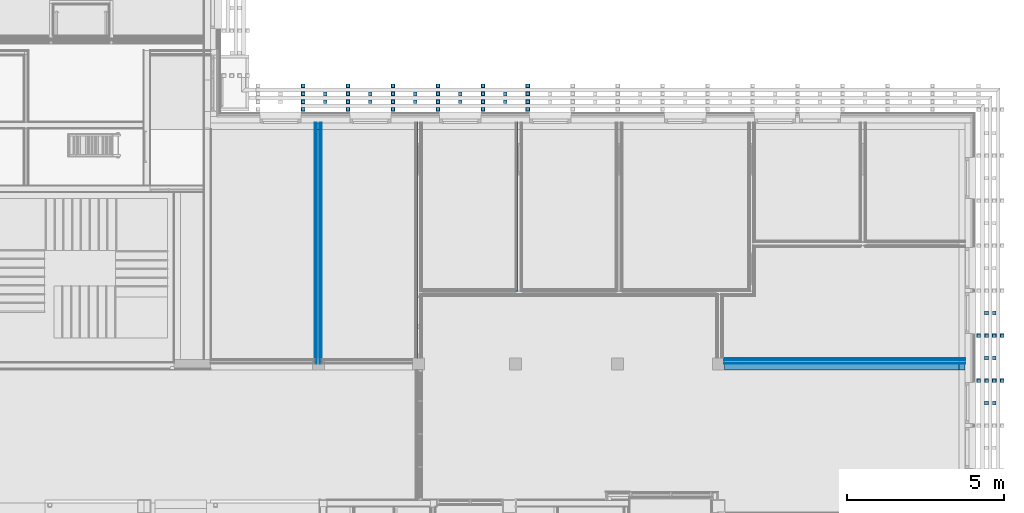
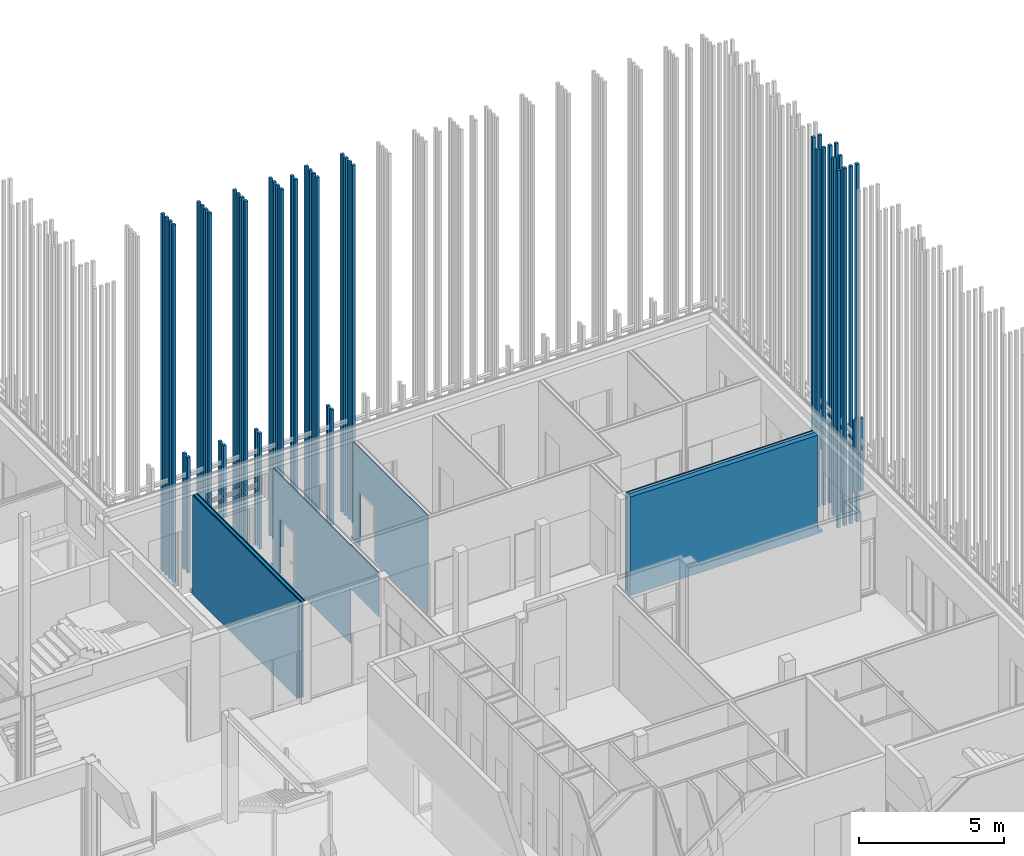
# One storey, part 215 of 260: 18 building element parts, 16 discrete accessories, 3 openings, 4 elements without a shape of their own.
"""IFC2X3 building model written with IfcOpenShell, lengths in millimetres."""

import ifcopenshell
import ifcopenshell.guid

model = None  # the IFC model being written
_history = None  # IfcOwnerHistory: only IFC2X3 demands one
_inside = {}  # id of a spatial element -> (the spatial element, [elements in it])
_under = {}  # id of a project, library or spatial element -> (it, [spatial elements below it])
_declared = {}  # id of a project -> (the project, [libraries it declares])
_typed = {}  # id of a type object -> (the type object, [elements of that type])
_made_of = {}  # id of a material, layer set ... -> (it, [elements and type objects made of it])


def new_model(schema):
    """Start an empty IFC model of exactly this schema.

    Asked for "IFC4X3", IfcOpenShell would pick the latest addendum, in which some entities
    have other attributes; the version numbers below select the first issue.
    IFC2X3 requires an IfcOwnerHistory on every rooted entity: one is made here for all.
    """
    global model, _history
    if schema == "IFC4X3":
        model = ifcopenshell.file(schema_version=(4, 3, 0, 0))
    else:
        model = ifcopenshell.file(schema=schema)
    _inside.clear()
    _under.clear()
    _declared.clear()
    _typed.clear()
    _made_of.clear()
    _history = None
    if model.schema == "IFC2X3":
        org = make("IfcOrganization", Name="unknown")
        user = make(
            "IfcPersonAndOrganization",
            ThePerson=make("IfcPerson", FamilyName="unknown"),
            TheOrganization=org,
        )
        app = make(
            "IfcApplication",
            ApplicationDeveloper=org,
            Version="unknown",
            ApplicationFullName="unknown",
            ApplicationIdentifier="unknown",
        )
        _history = make(
            "IfcOwnerHistory",
            OwningUser=user,
            OwningApplication=app,
            ChangeAction="ADDED",
            CreationDate=0,
        )
    return model


def make(cls, **values):
    """One entity of the class cls with the attributes given. An attribute that is None is left unset."""
    return model.create_entity(
        cls, **{name: value for name, value in values.items() if value is not None}
    )


def entity(cls, *values):
    """Any entity or typed value of the class cls, its attributes in the order of the schema. None: left unset."""
    e = model.create_entity(cls)
    for i, value in enumerate(values):
        if value is not None:
            e[i] = value
    return e


def rooted(cls, **values):
    """An entity with a GlobalId (a new one), such as an element, a storey or a relation."""
    return make(cls, GlobalId=ifcopenshell.guid.new(), OwnerHistory=_history, **values)


def si_unit(unit_type, name, prefix=None):
    """IfcSIUnit, for example si_unit("LENGTHUNIT", "METRE", prefix="MILLI")."""
    return make("IfcSIUnit", UnitType=unit_type, Prefix=prefix, Name=name)


def converted_unit(unit_type, name, factor, base, dimensions=None, offset=None):
    """IfcConversionBasedUnit, such as the inch: factor (a typed value) times the base unit."""
    return make(
        "IfcConversionBasedUnit"
        if offset is None
        else "IfcConversionBasedUnitWithOffset",
        ConversionOffset=offset,
        Dimensions=None
        if dimensions is None
        else entity("IfcDimensionalExponents", *dimensions),
        UnitType=unit_type,
        Name=name,
        ConversionFactor=make(
            "IfcMeasureWithUnit", ValueComponent=factor, UnitComponent=base
        ),
    )


def derived_unit(unit_type, elements):
    """IfcDerivedUnit: a product of units, each with its exponent."""
    return make(
        "IfcDerivedUnit",
        Elements=[
            make("IfcDerivedUnitElement", Unit=unit, Exponent=power)
            for unit, power in elements
        ],
        UnitType=unit_type,
    )


def money_unit(currency):
    """IfcMonetaryUnit."""
    return make("IfcMonetaryUnit", Currency=currency)


def assignment(units):
    """IfcUnitAssignment: the units of a project."""
    return None if units is None else make("IfcUnitAssignment", Units=units)


def point(xyz):
    """IfcCartesianPoint."""
    return None if xyz is None else make("IfcCartesianPoint", Coordinates=xyz)


def direction(xyz):
    """IfcDirection."""
    return None if xyz is None else make("IfcDirection", DirectionRatios=xyz)


def frame(location, z_axis=None, x_axis=None):
    """IfcAxis2Placement3D, a coordinate frame: its origin and axes. An axis left out is left unset."""
    return make(
        "IfcAxis2Placement3D",
        Location=point(location),
        Axis=direction(z_axis),
        RefDirection=direction(x_axis),
    )


def origin_with_axes():
    """The frame at (0, 0, 0) with the z axis (0, 0, 1) and the x axis (1, 0, 0) written out."""
    return frame((0.0, 0.0, 0.0), z_axis=(0.0, 0.0, 1.0), x_axis=(1.0, 0.0, 0.0))


def place(relative_to, where):
    """IfcLocalPlacement: puts the frame where relative to a parent placement (None: the world)."""
    return make(
        "IfcLocalPlacement", PlacementRelTo=relative_to, RelativePlacement=where
    )


def context(
    kind, dimensions, precision=None, world=None, true_north=None, identifier=None
):
    """IfcGeometricRepresentationContext, for example the 3D "Model" context."""
    return make(
        "IfcGeometricRepresentationContext",
        ContextIdentifier=identifier,
        ContextType=kind,
        CoordinateSpaceDimension=dimensions,
        Precision=precision,
        WorldCoordinateSystem=world,
        TrueNorth=true_north,
    )


def subcontext(parent, identifier, kind, view, scale=None):
    """IfcGeometricRepresentationSubContext, for example "Body" below "Model"."""
    return make(
        "IfcGeometricRepresentationSubContext",
        ContextIdentifier=identifier,
        ContextType=kind,
        ParentContext=parent,
        TargetScale=scale,
        TargetView=view,
    )


def project(units=None, contexts=None):
    """IfcProject with its units and contexts."""
    return rooted(
        "IfcProject",
        Name="project",
        RepresentationContexts=contexts,
        UnitsInContext=assignment(units),
    )


def spatial(cls, under=None, at=None, **own):
    """A site, building, storey or space (cls), placed at a placement, below another one or the project."""
    s = rooted(cls, ObjectPlacement=at, **own)
    if under is not None:
        _under.setdefault(under.id(), (under, []))[1].append(s)
    return s


def faces_of(points, faces, orient=None, outer=None):
    """IfcFace entities. A face is a list of loops; a loop is a list of indices into points, from 0.

    orient and outer hold one flag for each loop. By default every Orientation is true, the
    first loop of a face is its IfcFaceOuterBound and the others are IfcFaceBound.
    """
    made = []
    for i, loops in enumerate(faces):
        bounds = []
        for j, loop in enumerate(loops):
            is_outer = j == 0 if outer is None else outer[i][j]
            bounds.append(
                make(
                    "IfcFaceOuterBound" if is_outer else "IfcFaceBound",
                    Bound=make("IfcPolyLoop", Polygon=[points[k] for k in loop]),
                    Orientation=True if orient is None else orient[i][j],
                )
            )
        made.append(make("IfcFace", Bounds=bounds))
    return made


def faceted_brep(points, faces, orient=None, outer=None, voids=None):
    """IfcFacetedBrep: a solid bounded by flat faces; with voids (closed shells), ...WithVoids."""
    shared = [point(p) for p in points]
    hull = make("IfcClosedShell", CfsFaces=faces_of(shared, faces, orient, outer))
    if voids is None:
        return make("IfcFacetedBrep", Outer=hull)
    return make(
        "IfcFacetedBrepWithVoids",
        Outer=hull,
        Voids=[
            make(cls, CfsFaces=faces_of(shared, fs, o, b)) for cls, fs, o, b in voids
        ],
    )


def shape(context_of_items, identifier, shape_type, items):
    """IfcShapeRepresentation: the items that make up one representation, for example the "Body"."""
    return make(
        "IfcShapeRepresentation",
        ContextOfItems=context_of_items,
        RepresentationIdentifier=identifier,
        RepresentationType=shape_type,
        Items=items,
    )


def material(Name=None, Category=None):
    """IfcMaterial."""
    return make("IfcMaterial", Name=Name, Category=Category)


def material_list(materials):
    """IfcMaterialList."""
    return make("IfcMaterialList", Materials=materials)


def made_of(thing, what):
    """Note that an element or type object is made of a material, layer set ...; save() writes the relation."""
    if what is not None:
        _made_of.setdefault(what.id(), (what, []))[1].append(thing)
    return thing


def type_object(cls, material=None, **own):
    """A type object (cls), such as IfcWallType, which elements share."""
    return made_of(rooted(cls, **own), material)


def element(
    cls,
    number,
    at=None,
    inside=None,
    cuts=None,
    type_object=None,
    material=None,
    context=None,
    identifier="Body",
    shape_type=None,
    held_by="IfcProductDefinitionShape",
    body=None,
    shapes=None,
    **own,
):
    """One element of the class cls, such as IfcWall. Its Tag is "e" and its number.

    at: its placement. inside: the storey or other place that contains it. cuts: it is an
    opening in that element (IfcRelVoidsElement). A single representation is given by context,
    identifier, shape_type and body (its items); several are given by shapes. held_by: the class
    of the entity that holds the representations. save() writes the other relations.
    """
    e = rooted(cls, Tag="e%d" % number, ObjectPlacement=at, **own)
    if body is not None:
        shapes = [shape(context, identifier, shape_type, body)]
    if shapes is not None:
        e.Representation = make(held_by, Representations=shapes)
    if inside is not None:
        _inside.setdefault(inside.id(), (inside, []))[1].append(e)
    if cuts is not None:
        rooted(
            "IfcRelVoidsElement", RelatingBuildingElement=cuts, RelatedOpeningElement=e
        )
    if type_object is not None:
        _typed.setdefault(type_object.id(), (type_object, []))[1].append(e)
    return made_of(e, material)


def aggregate(whole, parts):
    """IfcRelAggregates: a whole, such as a stair, and the parts it consists of."""
    return rooted("IfcRelAggregates", RelatingObject=whole, RelatedObjects=parts)


def save(model, path):
    """Write the relations noted so far, then the file.

    IfcRelAggregates (storeys below a building ...), IfcRelContainedInSpatialStructure (elements
    in a storey), IfcRelDefinesByType, IfcRelAssociatesMaterial and IfcRelDeclares: one each for
    every whole, place, type object, material and project.
    """
    for whole, parts in _under.values():
        aggregate(whole, parts)
    for where, things in _inside.values():
        rooted(
            "IfcRelContainedInSpatialStructure",
            RelatedElements=things,
            RelatingStructure=where,
        )
    for kind, things in _typed.values():
        rooted("IfcRelDefinesByType", RelatedObjects=things, RelatingType=kind)
    for what, things in _made_of.values():
        rooted("IfcRelAssociatesMaterial", RelatedObjects=things, RelatingMaterial=what)
    for by, libraries in _declared.values():
        rooted("IfcRelDeclares", RelatingContext=by, RelatedDefinitions=libraries)
    model.write(path)


model = new_model("IFC2X3")

# Units and contexts
model_context = context("Model", 3, precision=0.01, world=origin_with_axes(), true_north=direction((0.0, 1.0)))
body_context = subcontext(model_context, "Body", "Model", "MODEL_VIEW")
ifc_project = project(units=[si_unit("LENGTHUNIT", "METRE", prefix="MILLI"), si_unit("AREAUNIT", "SQUARE_METRE"), si_unit("VOLUMEUNIT", "CUBIC_METRE"), converted_unit("PLANEANGLEUNIT", "DEGREE", entity("IfcPlaneAngleMeasure", 0.0174532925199), si_unit("PLANEANGLEUNIT", "RADIAN"), dimensions=[0, 0, 0, 0, 0, 0, 0]), money_unit("EUR"), converted_unit("TIMEUNIT", "Year", entity("IfcTimeMeasure", 31556926.0), si_unit("TIMEUNIT", "SECOND"), dimensions=[0, 0, 1, 0, 0, 0, 0]), si_unit("MASSUNIT", "GRAM", prefix="KILO"), si_unit("THERMODYNAMICTEMPERATUREUNIT", "DEGREE_CELSIUS"), si_unit("LUMINOUSINTENSITYUNIT", "LUMEN"), si_unit("ENERGYUNIT", "JOULE", prefix="MEGA"), derived_unit("THERMALCONDUCTANCEUNIT", [(si_unit("POWERUNIT", "WATT"), 1), (si_unit("LENGTHUNIT", "METRE"), -1), (si_unit("THERMODYNAMICTEMPERATUREUNIT", "KELVIN"), -1)]), derived_unit("SPECIFICHEATCAPACITYUNIT", [(si_unit("ENERGYUNIT", "JOULE"), 1), (si_unit("MASSUNIT", "GRAM", prefix="KILO"), -1), (si_unit("THERMODYNAMICTEMPERATUREUNIT", "KELVIN"), -1)]), derived_unit("MASSDENSITYUNIT", [(si_unit("MASSUNIT", "GRAM", prefix="KILO"), 1), (si_unit("VOLUMEUNIT", "CUBIC_METRE"), -1)])], contexts=[model_context])

# Site, building, storey
site_placement = place(None, origin_with_axes())
site = spatial("IfcSite", under=ifc_project, at=site_placement, Name="Kolde pst 67a", CompositionType="ELEMENT")
building_placement = place(site_placement, origin_with_axes())
building = spatial("IfcBuilding", under=site, at=building_placement, Name="Riigigümnaasium", CompositionType="ELEMENT")
storey_placement = place(building_placement, origin_with_axes())
storey = spatial("IfcBuildingStorey", under=building, at=storey_placement, Name="1. korrus", CompositionType="ELEMENT", Elevation=0.0)

# Discrete accessories
ifc_material_1 = material(Name="_VÄLISVIIMISTLUS - sõrmjätkatud puitprussid 120x115mm, liitekohad vähemärgatavad, Platowood sõrmjätkatud kuusk või samaväärne; eeltöödeldud tuletõkkevõõbaga, tuletundlikkus B-s1, d0, Woodsafe Exterior WFX™ või samaväärne; kinnitused vastavalt EK osale")
ifc_material_list_1 = material_list([ifc_material_1, ifc_material_1, ifc_material_1, ifc_material_1])
discrete_accessory_type_1 = type_object("IfcDiscreteAccessoryType", Name="120 4-ne vertikaalne 870 x 115")
for number, where, z_axis, x_axis in (
    (1, (63392.4904765, 36791.9898883, 280.0), (0.0, 0.0, 1.0), (-6.32316306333e-05, -0.999999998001, 0.0)),
    (2, (64822.4904765, 36791.989315, 280.0), (0.0, 0.0, 1.0), (-6.32316306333e-05, -0.999999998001, 0.0)),
    (3, (66252.4904765, 36791.9894233, 280.0), (0.0, 0.0, 1.0), (-6.32316306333e-05, -0.999999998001, 0.0)),
    (4, (67682.4904765, 36791.9934079, 280.0), (0.0, 0.0, 1.0), (-6.32316306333e-05, -0.999999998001, 0.0)),
    (5, (69112.4904765, 36791.9925828, 280.0), (0.0, 0.0, 1.0), (-6.32316306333e-05, -0.999999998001, 0.0)),
    (6, (70542.4904765, 36791.9932991, 280.0), (0.0, 0.0, 1.0), (-6.32316306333e-05, -0.999999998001, 0.0)),
    (7, (84792.0287604, 28237.5258999, 280.0), (0.0, 0.0, 1.0), (-0.999999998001, 6.32316306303e-05, 0.0)),
    (8, (84792.0287604, 29667.5259027, 280.0), (0.0, 0.0, 1.0), (-0.999999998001, 6.32316306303e-05, 0.0)),
):
    element("IfcDiscreteAccessory", number, at=place(storey_placement, frame(where, z_axis=z_axis, x_axis=x_axis)), inside=storey, type_object=discrete_accessory_type_1, material=ifc_material_list_1, Name="Päikesevarjestus", context=body_context, shape_type="Brep", body=[
        faceted_brep([(-133.0, -70.0, 0.0), (-13.0, -70.0, 0.0), (-13.0, -70.0, 15050.0), (-133.0, -70.0, 15050.0), (-133.0, 45.0, 0.0), (-13.0, 45.0, 0.0), (-13.0, 45.0, 15050.0), (-133.0, 45.0, 15050.0)], [[[0, 1, 2, 3]], [[0, 4, 5, 1]], [[1, 5, 6, 2]], [[3, 2, 6, 7]], [[4, 0, 3, 7]], [[5, 4, 7, 6]]]),
        faceted_brep([(-383.0, -70.0, 0.0), (-263.0, -70.0, 0.0), (-263.0, -70.0, 15050.0), (-383.0, -70.0, 15050.0), (-383.0, 45.0, 0.0), (-263.0, 45.0, 0.0), (-263.0, 45.0, 15050.0), (-383.0, 45.0, 15050.0)], [[[0, 1, 2, 3]], [[0, 4, 5, 1]], [[1, 5, 6, 2]], [[3, 2, 6, 7]], [[4, 0, 3, 7]], [[5, 4, 7, 6]]]),
        faceted_brep([(-633.0, -70.0, 0.0), (-513.0, -70.0, 0.0), (-513.0, -70.0, 15050.0), (-633.0, -70.0, 15050.0), (-633.0, 45.0, 0.0), (-513.0, 45.0, 0.0), (-513.0, 45.0, 15050.0), (-633.0, 45.0, 15050.0)], [[[0, 1, 2, 3]], [[0, 4, 5, 1]], [[1, 5, 6, 2]], [[3, 2, 6, 7]], [[4, 0, 3, 7]], [[5, 4, 7, 6]]]),
        faceted_brep([(-883.0, -70.0, 0.0), (-763.0, -70.0, 0.0), (-763.0, -70.0, 15050.0), (-883.0, -70.0, 15050.0), (-883.0, 45.0, 0.0), (-763.0, 45.0, 0.0), (-763.0, 45.0, 15050.0), (-883.0, 45.0, 15050.0)], [[[0, 1, 2, 3]], [[0, 4, 5, 1]], [[1, 5, 6, 2]], [[3, 2, 6, 7]], [[4, 0, 3, 7]], [[5, 4, 7, 6]]]),
    ])
ifc_material_list_2 = material_list([ifc_material_1, ifc_material_1])
discrete_accessory_type_2 = type_object("IfcDiscreteAccessoryType", Name="1+paiksekaitse 3 370 x 115")
discrete_accessory_1_placement = place(storey_placement, frame((85772.0257564, 29025.0094598, 280.0), z_axis=(0.0, 0.0, 1.0), x_axis=(-1.0, 0.0, 0.0)))
element("IfcDiscreteAccessory", 9, at=discrete_accessory_1_placement, inside=storey, type_object=discrete_accessory_type_2, material=ifc_material_list_2, Name="Päikesevarjestus", context=body_context, shape_type="Brep", body=[
    faceted_brep([(467.0, 117.5, 0.0), (347.0, 117.5, 0.0), (347.0, 117.5, 15050.0), (467.0, 117.5, 15050.0), (467.0, 2.5, 0.0), (347.0, 2.5, 0.0), (347.0, 2.5, 15050.0), (467.0, 2.5, 15050.0)], [[[0, 1, 2, 3]], [[0, 4, 5, 1]], [[1, 5, 6, 2]], [[3, 2, 6, 7]], [[4, 0, 3, 7]], [[5, 4, 7, 6]]]),
    faceted_brep([(717.0, 117.5, 0.0), (597.0, 117.5, 0.0), (597.0, 117.5, 15050.0), (717.0, 117.5, 15050.0), (717.0, 2.5, 0.0), (597.0, 2.5, 0.0), (597.0, 2.5, 15050.0), (717.0, 2.5, 15050.0)], [[[0, 1, 2, 3]], [[0, 4, 5, 1]], [[1, 5, 6, 2]], [[3, 2, 6, 7]], [[4, 0, 3, 7]], [[5, 4, 7, 6]]]),
])
discrete_accessory_2_placement = place(storey_placement, frame((85772.0257564, 30455.0094578, 2100.00014213), z_axis=(0.0, 0.0, 1.0), x_axis=(-1.0, 0.0, 0.0)))
element("IfcDiscreteAccessory", 10, at=discrete_accessory_2_placement, inside=storey, type_object=discrete_accessory_type_2, material=ifc_material_list_2, Name="Päikesevarjestus", context=body_context, shape_type="Brep", body=[
    faceted_brep([(467.0, 117.5, 0.0), (347.0, 117.5, 0.0), (347.0, 117.5, 13229.9998579), (467.0, 117.5, 13229.9998579), (467.0, 2.5, 0.0), (347.0, 2.5, 0.0), (347.0, 2.5, 13229.9998579), (467.0, 2.5, 13229.9998579)], [[[0, 1, 2, 3]], [[0, 4, 5, 1]], [[1, 5, 6, 2]], [[3, 2, 6, 7]], [[4, 0, 3, 7]], [[5, 4, 7, 6]]]),
    faceted_brep([(717.0, 117.5, 0.0), (597.0, 117.5, 0.0), (597.0, 117.5, 13229.9998579), (717.0, 117.5, 13229.9998579), (717.0, 2.5, 0.0), (597.0, 2.5, 0.0), (597.0, 2.5, 13229.9998579), (717.0, 2.5, 13229.9998579)], [[[0, 1, 2, 3]], [[0, 4, 5, 1]], [[1, 5, 6, 2]], [[3, 2, 6, 7]], [[4, 0, 3, 7]], [[5, 4, 7, 6]]]),
])
discrete_accessory_3_placement = place(storey_placement, frame((85772.0257564, 27595.0052234, 2100.00014213), z_axis=(0.0, 0.0, 1.0), x_axis=(-1.0, 0.0, 0.0)))
element("IfcDiscreteAccessory", 11, at=discrete_accessory_3_placement, inside=storey, type_object=discrete_accessory_type_2, material=ifc_material_list_2, Name="Päikesevarjestus", context=body_context, shape_type="Brep", body=[
    faceted_brep([(467.0, 117.5, 0.0), (347.0, 117.5, 0.0), (347.0, 117.5, 3050.0), (467.0, 117.5, 3050.0), (467.0, 2.5, 0.0), (347.0, 2.5, 0.0), (347.0, 2.5, 3050.0), (467.0, 2.5, 3050.0)], [[[0, 1, 2, 3]], [[0, 4, 5, 1]], [[1, 5, 6, 2]], [[3, 2, 6, 7]], [[4, 0, 3, 7]], [[5, 4, 7, 6]]]),
    faceted_brep([(717.0, 117.5, 0.0), (597.0, 117.5, 0.0), (597.0, 117.5, 3050.0), (717.0, 117.5, 3050.0), (717.0, 2.5, 0.0), (597.0, 2.5, 0.0), (597.0, 2.5, 3050.0), (717.0, 2.5, 3050.0)], [[[0, 1, 2, 3]], [[0, 4, 5, 1]], [[1, 5, 6, 2]], [[3, 2, 6, 7]], [[4, 0, 3, 7]], [[5, 4, 7, 6]]]),
])
discrete_accessory_4_placement = place(storey_placement, frame((68325.0296817, 37772.0065764, 2100.00014213), z_axis=(0.0, 0.0, 1.0), x_axis=(0.0, -1.0, 0.0)))
element("IfcDiscreteAccessory", 12, at=discrete_accessory_4_placement, inside=storey, type_object=discrete_accessory_type_2, material=ifc_material_list_2, Name="Päikesevarjestus", context=body_context, shape_type="Brep", body=[
    faceted_brep([(467.0, 117.5, 0.0), (347.0, 117.5, 0.0), (347.0, 117.5, 13229.9998579), (467.0, 117.5, 13229.9998579), (467.0, 2.49999999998, 0.0), (347.0, 2.5, 0.0), (347.0, 2.5, 13229.9998579), (467.0, 2.49999999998, 13229.9998579)], [[[0, 1, 2, 3]], [[0, 4, 5, 1]], [[1, 5, 6, 2]], [[3, 2, 6, 7]], [[4, 0, 3, 7]], [[5, 4, 7, 6]]]),
    faceted_brep([(717.0, 117.5, 0.0), (597.0, 117.5, 0.0), (597.0, 117.5, 13229.9998579), (717.0, 117.5, 13229.9998579), (717.0, 2.5, 0.0), (597.0, 2.5, 0.0), (597.0, 2.5, 13229.9998579), (717.0, 2.5, 13229.9998579)], [[[0, 1, 2, 3]], [[0, 4, 5, 1]], [[1, 5, 6, 2]], [[3, 2, 6, 7]], [[4, 0, 3, 7]], [[5, 4, 7, 6]]]),
])
for number, where, z_axis, x_axis in (
    (13, (69755.0448307, 37771.9921115, 280.0), (0.0, 0.0, 1.0), (0.0, -1.0, 0.0)),
    (14, (66895.0448221, 37771.9921115, 280.0), (0.0, 0.0, 1.0), (0.0, -1.0, 0.0)),
):
    element("IfcDiscreteAccessory", number, at=place(storey_placement, frame(where, z_axis=z_axis, x_axis=x_axis)), inside=storey, type_object=discrete_accessory_type_2, material=ifc_material_list_2, Name="Päikesevarjestus", context=body_context, shape_type="Brep", body=[
        faceted_brep([(467.0, 117.5, 0.0), (347.0, 117.5, 0.0), (347.0, 117.5, 4870.00014213), (467.0, 117.5, 4870.00014213), (467.0, 2.49999999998, 0.0), (347.0, 2.5, 0.0), (347.0, 2.5, 4870.00014213), (467.0, 2.49999999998, 4870.00014213)], [[[0, 1, 2, 3]], [[0, 4, 5, 1]], [[1, 5, 6, 2]], [[3, 2, 6, 7]], [[4, 0, 3, 7]], [[5, 4, 7, 6]]]),
        faceted_brep([(717.0, 117.5, 0.0), (597.0, 117.5, 0.0), (597.0, 117.5, 4870.00014213), (717.0, 117.5, 4870.00014213), (717.0, 2.5, 0.0), (597.0, 2.5, 0.0), (597.0, 2.5, 4870.00014213), (717.0, 2.5, 4870.00014213)], [[[0, 1, 2, 3]], [[0, 4, 5, 1]], [[1, 5, 6, 2]], [[3, 2, 6, 7]], [[4, 0, 3, 7]], [[5, 4, 7, 6]]]),
    ])
discrete_accessory_5_placement = place(storey_placement, frame((65465.0448221, 37771.9921115, 2100.0), z_axis=(0.0, 0.0, 1.0), x_axis=(0.0, -1.0, 0.0)))
element("IfcDiscreteAccessory", 15, at=discrete_accessory_5_placement, inside=storey, type_object=discrete_accessory_type_2, material=ifc_material_list_2, Name="Päikesevarjestus", context=body_context, shape_type="Brep", body=[
    faceted_brep([(467.0, 117.5, 0.0), (347.0, 117.5, 0.0), (347.0, 117.5, 3050.00014213), (467.0, 117.5, 3050.00014213), (467.0, 2.49999999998, 0.0), (347.0, 2.5, 0.0), (347.0, 2.5, 3050.00014213), (467.0, 2.49999999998, 3050.00014213)], [[[0, 1, 2, 3]], [[0, 4, 5, 1]], [[1, 5, 6, 2]], [[3, 2, 6, 7]], [[4, 0, 3, 7]], [[5, 4, 7, 6]]]),
    faceted_brep([(717.0, 117.5, 0.0), (597.0, 117.5, 0.0), (597.0, 117.5, 3050.00014213), (717.0, 117.5, 3050.00014213), (717.0, 2.5, 0.0), (597.0, 2.5, 0.0), (597.0, 2.5, 3050.00014213), (717.0, 2.5, 3050.00014213)], [[[0, 1, 2, 3]], [[0, 4, 5, 1]], [[1, 5, 6, 2]], [[3, 2, 6, 7]], [[4, 0, 3, 7]], [[5, 4, 7, 6]]]),
])
discrete_accessory_6_placement = place(storey_placement, frame((64035.0448221, 37771.9921115, 280.0), z_axis=(0.0, 0.0, 1.0), x_axis=(0.0, -1.0, 0.0)))
element("IfcDiscreteAccessory", 16, at=discrete_accessory_6_placement, inside=storey, type_object=discrete_accessory_type_2, material=ifc_material_list_2, Name="Päikesevarjestus", context=body_context, shape_type="Brep", body=[
    faceted_brep([(467.0, 117.5, 0.0), (347.0, 117.5, 0.0), (347.0, 117.5, 4870.00014213), (467.0, 117.5, 4870.00014213), (467.0, 2.49999999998, 0.0), (347.0, 2.5, 0.0), (347.0, 2.5, 4870.00014213), (467.0, 2.49999999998, 4870.00014213)], [[[0, 1, 2, 3]], [[0, 4, 5, 1]], [[1, 5, 6, 2]], [[3, 2, 6, 7]], [[4, 0, 3, 7]], [[5, 4, 7, 6]]]),
    faceted_brep([(717.0, 117.5, 0.0), (597.0, 117.5, 0.0), (597.0, 117.5, 4870.00014213), (717.0, 117.5, 4870.00014213), (717.0, 2.5, 0.0), (597.0, 2.5, 0.0), (597.0, 2.5, 4870.00014213), (717.0, 2.5, 4870.00014213)], [[[0, 1, 2, 3]], [[0, 4, 5, 1]], [[1, 5, 6, 2]], [[3, 2, 6, 7]], [[4, 0, 3, 7]], [[5, 4, 7, 6]]]),
])

# Wall, building element parts
wall_type_1 = type_object("IfcWallType", Name="SS-PK-10/1_vill100+2dold 220", PredefinedType="NOTDEFINED")
wall_1_placement = place(storey_placement, frame((63760.0301526, 28589.999656, 0.0), z_axis=(0.0, 0.0, 1.0), x_axis=(0.0, 1.0, 0.0)))
wall_1 = element("IfcWall", 17, at=wall_1_placement, inside=storey, type_object=wall_type_1, Name="Sisesein")
ifc_material_2 = material(Name="_VIIMISTLUSKIHT - Dold plaat vastavalt SA osale")
building_element_part_1_placement = place(wall_1_placement, origin_with_axes())
building_element_part_1 = element("IfcBuildingElementPart", 18, at=building_element_part_1_placement, material=ifc_material_2, Name="_VIIMISTLUSKIHT - Dold plaat vastavalt SA osale", context=body_context, shape_type="Brep", body=[
    faceted_brep([(380.00004372, -20.0, 4169.9), (380.00004372, -20.0, 0.0), (7850.00004372, -20.0, 0.0), (7850.00004372, -20.0, 100.0), (7650.00004372, -20.0, 100.0), (7650.00004372, -20.0, 4170.0), (200.0, -20.0, 4170.0), (200.0, -20.0, 4169.9), (380.00004372, 0.0, 4169.9), (380.00004372, 0.0, 0.0), (7850.00004372, 0.0, 0.0), (7850.00004372, 0.0, 100.0), (7650.00004372, 0.0, 100.0), (7650.00004372, 0.0, 4170.0), (200.0, 0.0, 4170.0), (200.0, 0.0, 4169.9)], [[[0, 1, 2, 3, 4, 5, 6, 7]], [[1, 0, 8, 9]], [[1, 9, 10, 2]], [[2, 10, 11, 3]], [[11, 12, 4, 3]], [[12, 13, 5, 4]], [[14, 6, 5, 13]], [[15, 7, 6, 14]], [[0, 7, 15, 8]], [[8, 15, 14, 13, 12, 11, 10, 9]]]),
])
ifc_material_3 = material(Name="_KARKASS - eriprofiilkinnitus vastavalt sisemisele plaatviimistlusele")
building_element_part_2_placement = place(wall_1_placement, origin_with_axes())
building_element_part_2 = element("IfcBuildingElementPart", 19, at=building_element_part_2_placement, material=ifc_material_3, Name="_KARKASS - eriprofiilkinnitus vastavalt sisemisele plaatviimistlusele", context=body_context, shape_type="Brep", body=[
    faceted_brep([(380.00004372, -30.0, 4169.9), (380.00004372, -30.0, 0.0), (7850.00004372, -30.0, 0.0), (7850.00004372, -30.0, 100.0), (7650.00004372, -30.0, 100.0), (7650.00004372, -30.0, 4170.0), (200.0, -30.0, 4170.0), (200.0, -30.0, 4169.9), (380.00004372, -20.0, 4169.9), (380.00004372, -20.0, 0.0), (7850.00004372, -20.0, 0.0), (7850.00004372, -20.0, 100.0), (7650.00004372, -20.0, 100.0), (7650.00004372, -20.0, 4170.0), (200.0, -20.0, 4170.0), (200.0, -20.0, 4169.9)], [[[0, 1, 2, 3, 4, 5, 6, 7]], [[1, 0, 8, 9]], [[1, 9, 10, 2]], [[2, 10, 11, 3]], [[11, 12, 4, 3]], [[12, 13, 5, 4]], [[14, 6, 5, 13]], [[15, 7, 6, 14]], [[0, 7, 15, 8]], [[8, 15, 14, 13, 12, 11, 10, 9]]]),
])
ifc_material_4 = material(Name="_PLAATMATERJAL - tuletõkkekipsplaat, Knauf Red GKF või samaväärne")
building_element_part_3_placement = place(wall_1_placement, origin_with_axes())
building_element_part_3 = element("IfcBuildingElementPart", 20, at=building_element_part_3_placement, material=ifc_material_4, Name="_PLAATMATERJAL - tuletõkkekipsplaat, Knauf Red GKF või samaväärne", context=body_context, shape_type="Brep", body=[
    faceted_brep([(380.00004372, -45.0, 4169.9), (380.00004372, -45.0, 0.0), (7850.00004372, -45.0, 0.0), (7850.00004372, -45.0, 100.0), (7650.00004372, -45.0, 100.0), (7650.00004372, -45.0, 4170.0), (200.0, -45.0, 4170.0), (200.0, -45.0, 4169.9), (380.00004372, -30.0, 4169.9), (380.00004372, -30.0, 0.0), (7850.00004372, -30.0, 0.0), (7850.00004372, -30.0, 100.0), (7650.00004372, -30.0, 100.0), (7650.00004372, -30.0, 4170.0), (200.0, -30.0, 4170.0), (200.0, -30.0, 4169.9)], [[[0, 1, 2, 3, 4, 5, 6, 7]], [[1, 0, 8, 9]], [[1, 9, 10, 2]], [[2, 10, 11, 3]], [[11, 12, 4, 3]], [[12, 13, 5, 4]], [[14, 6, 5, 13]], [[15, 7, 6, 14]], [[0, 7, 15, 8]], [[8, 15, 14, 13, 12, 11, 10, 9]]]),
])
building_element_part_4_placement = place(wall_1_placement, origin_with_axes())
building_element_part_4 = element("IfcBuildingElementPart", 21, at=building_element_part_4_placement, material=ifc_material_4, Name="_PLAATMATERJAL - tuletõkkekipsplaat, Knauf Red GKF või samaväärne", context=body_context, shape_type="Brep", body=[
    faceted_brep([(380.00004372, -60.0, 4169.9), (380.00004372, -60.0, 0.0), (7850.00004372, -60.0, 0.0), (7850.00004372, -60.0, 100.0), (7650.00004372, -60.0, 100.0), (7650.00004372, -60.0, 4170.0), (200.0, -60.0, 4170.0), (200.0, -60.0, 4169.9), (380.00004372, -45.0, 4169.9), (380.00004372, -45.0, 0.0), (7850.00004372, -45.0, 0.0), (7850.00004372, -45.0, 100.0), (7650.00004372, -45.0, 100.0), (7650.00004372, -45.0, 4170.0), (200.0, -45.0, 4170.0), (200.0, -45.0, 4169.9)], [[[0, 1, 2, 3, 4, 5, 6, 7]], [[1, 0, 8, 9]], [[1, 9, 10, 2]], [[2, 10, 11, 3]], [[11, 12, 4, 3]], [[12, 13, 5, 4]], [[14, 6, 5, 13]], [[15, 7, 6, 14]], [[0, 7, 15, 8]], [[8, 15, 14, 13, 12, 11, 10, 9]]]),
])
ifc_material_5 = material(Name="_KARKASS - puitpruss 100x50mm vertikaalne, samm 600mm, vahel mineraalvill, helineeldetegur αw = 1.0, ISOVER ACOUSTIC 100mm või samaväärne")
building_element_part_5_placement = place(wall_1_placement, origin_with_axes())
building_element_part_5 = element("IfcBuildingElementPart", 22, at=building_element_part_5_placement, material=ifc_material_5, Name="_KARKASS - puitpruss 100x50mm vertikaalne, samm 600mm, vahel mineraalvill, helineeldetegur αw = 1.0, ISOVER ACOUSTIC 100mm või samaväärne", context=body_context, shape_type="Brep", body=[
    faceted_brep([(380.00004372, -160.0, 4169.9), (380.00004372, -160.0, 0.0), (7850.00004372, -160.0, 0.0), (7850.00004372, -160.0, 100.0), (7650.00004372, -160.0, 100.0), (7650.00004372, -160.0, 4170.0), (200.0, -160.0, 4170.0), (200.0, -160.0, 4169.9), (380.00004372, -60.0, 4169.9), (380.00004372, -60.0, 0.0), (7850.00004372, -60.0, 0.0), (7850.00004372, -60.0, 100.0), (7650.00004372, -60.0, 100.0), (7650.00004372, -60.0, 4170.0), (200.0, -60.0, 4170.0), (200.0, -60.0, 4169.9)], [[[0, 1, 2, 3, 4, 5, 6, 7]], [[1, 0, 8, 9]], [[1, 9, 10, 2]], [[2, 10, 11, 3]], [[11, 12, 4, 3]], [[12, 13, 5, 4]], [[14, 6, 5, 13]], [[15, 7, 6, 14]], [[0, 7, 15, 8]], [[8, 15, 14, 13, 12, 11, 10, 9]]]),
])
building_element_part_6_placement = place(wall_1_placement, origin_with_axes())
building_element_part_6 = element("IfcBuildingElementPart", 23, at=building_element_part_6_placement, material=ifc_material_4, Name="_PLAATMATERJAL - tuletõkkekipsplaat, Knauf Red GKF või samaväärne", context=body_context, shape_type="Brep", body=[
    faceted_brep([(380.00004372, -175.0, 4169.9), (380.00004372, -175.0, 0.0), (7850.00004372, -175.0, 0.0), (7850.00004372, -175.0, 100.0), (7650.00004372, -175.0, 100.0), (7650.00004372, -175.0, 4170.0), (200.0, -175.0, 4170.0), (200.0, -175.0, 4169.9), (380.00004372, -160.0, 4169.9), (380.00004372, -160.0, 0.0), (7850.00004372, -160.0, 0.0), (7850.00004372, -160.0, 100.0), (7650.00004372, -160.0, 100.0), (7650.00004372, -160.0, 4170.0), (200.0, -160.0, 4170.0), (200.0, -160.0, 4169.9)], [[[0, 1, 2, 3, 4, 5, 6, 7]], [[1, 0, 8, 9]], [[1, 9, 10, 2]], [[2, 10, 11, 3]], [[11, 12, 4, 3]], [[12, 13, 5, 4]], [[14, 6, 5, 13]], [[15, 7, 6, 14]], [[0, 7, 15, 8]], [[8, 15, 14, 13, 12, 11, 10, 9]]]),
])
building_element_part_7_placement = place(wall_1_placement, origin_with_axes())
building_element_part_7 = element("IfcBuildingElementPart", 24, at=building_element_part_7_placement, material=ifc_material_4, Name="_PLAATMATERJAL - tuletõkkekipsplaat, Knauf Red GKF või samaväärne", context=body_context, shape_type="Brep", body=[
    faceted_brep([(380.00004372, -190.0, 4169.9), (380.00004372, -190.0, 0.0), (7850.00004372, -190.0, 0.0), (7850.00004372, -190.0, 100.0), (7650.00004372, -190.0, 100.0), (7650.00004372, -190.0, 4170.0), (200.0, -190.0, 4170.0), (200.0, -190.0, 4169.9), (380.00004372, -175.0, 4169.9), (380.00004372, -175.0, 0.0), (7850.00004372, -175.0, 0.0), (7850.00004372, -175.0, 100.0), (7650.00004372, -175.0, 100.0), (7650.00004372, -175.0, 4170.0), (200.0, -175.0, 4170.0), (200.0, -175.0, 4169.9)], [[[0, 1, 2, 3, 4, 5, 6, 7]], [[1, 0, 8, 9]], [[1, 9, 10, 2]], [[2, 10, 11, 3]], [[11, 12, 4, 3]], [[12, 13, 5, 4]], [[14, 6, 5, 13]], [[15, 7, 6, 14]], [[0, 7, 15, 8]], [[8, 15, 14, 13, 12, 11, 10, 9]]]),
])
building_element_part_8_placement = place(wall_1_placement, origin_with_axes())
building_element_part_8 = element("IfcBuildingElementPart", 25, at=building_element_part_8_placement, material=ifc_material_3, Name="_KARKASS - eriprofiilkinnitus vastavalt sisemisele plaatviimistlusele", context=body_context, shape_type="Brep", body=[
    faceted_brep([(380.00004372, -200.0, 4169.9), (380.00004372, -200.0, 0.0), (7850.00004372, -200.0, 0.0), (7850.00004372, -200.0, 100.0), (7650.00004372, -200.0, 100.0), (7650.00004372, -200.0, 4170.0), (200.0, -200.0, 4170.0), (200.0, -200.0, 4169.9), (380.00004372, -190.0, 4169.9), (380.00004372, -190.0, 0.0), (7850.00004372, -190.0, 0.0), (7850.00004372, -190.0, 100.0), (7650.00004372, -190.0, 100.0), (7650.00004372, -190.0, 4170.0), (200.0, -190.0, 4170.0), (200.0, -190.0, 4169.9)], [[[0, 1, 2, 3, 4, 5, 6, 7]], [[1, 0, 8, 9]], [[1, 9, 10, 2]], [[2, 10, 11, 3]], [[11, 12, 4, 3]], [[12, 13, 5, 4]], [[14, 6, 5, 13]], [[15, 7, 6, 14]], [[0, 7, 15, 8]], [[8, 15, 14, 13, 12, 11, 10, 9]]]),
])
building_element_part_9_placement = place(wall_1_placement, origin_with_axes())
building_element_part_9 = element("IfcBuildingElementPart", 26, at=building_element_part_9_placement, material=ifc_material_2, Name="_VIIMISTLUSKIHT - Dold plaat vastavalt SA osale", context=body_context, shape_type="Brep", body=[
    faceted_brep([(380.00004372, -220.0, 4169.9), (380.00004372, -220.0, 0.0), (7850.00004372, -220.0, 0.0), (7850.00004372, -220.0, 100.0), (7650.00004372, -220.0, 100.0), (7650.00004372, -220.0, 4170.0), (200.0, -220.0, 4170.0), (200.0, -220.0, 4169.9), (380.00004372, -200.0, 4169.9), (380.00004372, -200.0, 0.0), (7850.00004372, -200.0, 0.0), (7850.00004372, -200.0, 100.0), (7650.00004372, -200.0, 100.0), (7650.00004372, -200.0, 4170.0), (200.0, -200.0, 4170.0), (200.0, -200.0, 4169.9)], [[[0, 1, 2, 3, 4, 5, 6, 7]], [[1, 0, 8, 9]], [[1, 9, 10, 2]], [[2, 10, 11, 3]], [[11, 12, 4, 3]], [[12, 13, 5, 4]], [[14, 6, 5, 13]], [[15, 7, 6, 14]], [[0, 7, 15, 8]], [[8, 15, 14, 13, 12, 11, 10, 9]]]),
])
aggregate(wall_1, [building_element_part_1, building_element_part_2, building_element_part_3, building_element_part_4, building_element_part_5, building_element_part_6, building_element_part_7, building_element_part_8, building_element_part_9])

# Wall, opening, building element part
wall_2_placement = place(storey_placement, frame((70140.2124345, 30929.9996719, 0.0), z_axis=(0.0, 0.0, 1.0), x_axis=(0.0, 1.0, 0.0)))
wall_2 = element("IfcWall", 27, at=wall_2_placement, inside=storey, type_object=wall_type_1, Name="Sisesein")
opening_1_placement = place(wall_2_placement, frame((4360.00002788, 0.0, 0.0), z_axis=(0.0, 0.0, 1.0), x_axis=(1.0, 0.0, 0.0)))
element("IfcOpeningElement", 28, at=opening_1_placement, cuts=wall_2, Name="Siseuks", context=body_context, shape_type="Brep", body=[
    faceted_brep([(500.0, -440.0, 2300.0), (500.0, -440.0, 0.0), (500.0, -50.0, 0.0), (500.0, -50.0, 2300.0), (-500.0, -440.0, 2300.0), (-500.0, -440.0, 0.0), (-500.0, -50.0, 0.0), (-500.0, -50.0, 2300.0)], [[[0, 1, 2, 3]], [[0, 4, 5, 1]], [[1, 5, 6, 2]], [[3, 2, 6, 7]], [[4, 0, 3, 7]], [[5, 4, 7, 6]]]),
    faceted_brep([(500.0, 220.0, 0.0), (500.0, 220.0, 2300.0), (500.0, -50.0, 2300.0), (500.0, -50.0, 0.0), (-500.0, 220.0, 0.0), (-500.0, 220.0, 2300.0), (-500.0, -50.0, 2300.0), (-500.0, -50.0, 0.0)], [[[0, 1, 2, 3]], [[0, 4, 5, 1]], [[1, 5, 6, 2]], [[3, 2, 6, 7]], [[4, 0, 3, 7]], [[5, 4, 7, 6]]]),
])
building_element_part_10_placement = place(wall_2_placement, origin_with_axes())
building_element_part_10 = element("IfcBuildingElementPart", 29, at=building_element_part_10_placement, material=ifc_material_4, Name="_PLAATMATERJAL - tuletõkkekipsplaat, Knauf Red GKF või samaväärne", context=body_context, shape_type="Brep", body=[
    faceted_brep([(175.0, -60.0, 0.0), (3860.00002788, -60.0, 0.0), (3860.00002788, -60.0, 2300.0), (4860.00002788, -60.0, 2300.0), (4860.00002788, -60.0, 0.0), (5510.00002788, -60.0, 0.0), (5510.00002788, -60.0, 100.0), (5310.00002788, -60.0, 100.0), (5310.00002788, -60.0, 4170.0), (175.0, -60.0, 4170.0), (3860.00002788, -45.0, 0.0), (3860.00002788, -50.0, 0.0), (175.0, -45.0, 0.0), (3860.00002788, -45.0, 2300.0), (4860.00002788, -45.0, 2300.0), (4860.00002788, -45.0, 0.0), (4860.00002788, -50.0, 0.0), (5510.00002788, -45.0, 0.0), (5510.00002788, -45.0, 100.0), (5310.00002788, -45.0, 100.0), (5310.00002788, -45.0, 4170.0), (175.0, -45.0, 4170.0)], [[[0, 1, 2, 3, 4, 5, 6, 7, 8, 9]], [[10, 11, 1, 0, 12]], [[13, 2, 1, 11, 10]], [[14, 3, 2, 13]], [[15, 16, 4, 3, 14]], [[5, 4, 16, 15, 17]], [[18, 6, 5, 17]], [[7, 6, 18, 19]], [[8, 7, 19, 20]], [[8, 20, 21, 9]], [[21, 12, 0, 9]], [[18, 17, 15, 14, 13, 10, 12, 21, 20, 19]]]),
])
aggregate(wall_2, [building_element_part_10])

# Wall, building element parts
wall_type_2 = type_object("IfcWallType", Name="SS-CLT-20/2_vill+dold 360", PredefinedType="NOTDEFINED")
wall_3_placement = place(storey_placement, frame((76780.0020631, 28589.9993109, 0.0), z_axis=(0.0, 0.0, 1.0), x_axis=(1.0, 0.0, 0.0)))
wall_3 = element("IfcWall", 30, at=wall_3_placement, inside=storey, type_object=wall_type_2, Name="Sisesein")
building_element_part_11_placement = place(wall_3_placement, origin_with_axes())
building_element_part_11 = element("IfcBuildingElementPart", 31, at=building_element_part_11_placement, material=ifc_material_2, Name="_VIIMISTLUSKIHT - Dold plaat vastavalt SA osale", context=body_context, shape_type="Brep", body=[
    faceted_brep([(0.0, 360.0, 0.0), (0.0, 360.0, 4156.9), (7459.99726487, 360.0, 4156.9), (7459.99726487, 360.0, 100.0), (7659.99726487, 360.0, 100.0), (7659.99678877, 360.0, 0.0), (0.0, 340.0, 0.0), (0.0, 340.0, 4156.9), (7459.99726487, 339.999999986, 4156.9), (7459.99726487, 339.999998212, 100.0), (7659.99726487, 339.999998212, 100.0), (7659.99678877, 339.999998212, 0.0)], [[[0, 1, 2, 3, 4, 5]], [[6, 7, 1, 0]], [[7, 8, 2, 1]], [[3, 2, 8, 9]], [[3, 9, 10, 4]], [[11, 5, 4, 10]], [[11, 6, 0, 5]], [[9, 8, 7, 6, 11, 10]]]),
])
building_element_part_12_placement = place(wall_3_placement, origin_with_axes())
building_element_part_12 = element("IfcBuildingElementPart", 32, at=building_element_part_12_placement, material=ifc_material_3, Name="_KARKASS - eriprofiilkinnitus vastavalt sisemisele plaatviimistlusele", context=body_context, shape_type="Brep", body=[
    faceted_brep([(0.0, 340.0, 0.0), (0.0, 340.0, 4156.9), (7459.99726487, 339.999999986, 4156.9), (7459.99726487, 339.999998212, 100.0), (7659.99726487, 339.999998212, 100.0), (7659.99678877, 339.999998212, 0.0), (0.0, 330.0, 0.0), (0.0, 330.0, 4156.9), (7459.99726487, 330.0, 4156.9), (7459.99726487, 330.0, 100.0), (7659.99726487, 330.0, 100.0), (7659.99678877, 330.0, 0.0)], [[[0, 1, 2, 3, 4, 5]], [[6, 7, 1, 0]], [[7, 8, 2, 1]], [[3, 2, 8, 9]], [[3, 9, 10, 4]], [[11, 5, 4, 10]], [[11, 6, 0, 5]], [[9, 8, 7, 6, 11, 10]]]),
])
building_element_part_13_placement = place(wall_3_placement, origin_with_axes())
building_element_part_13 = element("IfcBuildingElementPart", 33, at=building_element_part_13_placement, material=ifc_material_4, Name="_PLAATMATERJAL - tuletõkkekipsplaat, Knauf Red GKF või samaväärne", context=body_context, shape_type="Brep", body=[
    faceted_brep([(0.0, 330.0, 0.0), (0.0, 330.0, 4156.9), (7459.99726487, 330.0, 4156.9), (7459.99726487, 330.0, 100.0), (7659.99726487, 330.0, 100.0), (7659.99678877, 330.0, 0.0), (0.0, 315.0, 0.0), (0.0, 315.0, 4156.9), (7459.99726487, 315.0, 4156.9), (7459.99726487, 315.0, 100.0), (7659.99726487, 315.0, 100.0), (7659.99678877, 315.0, 0.0)], [[[0, 1, 2, 3, 4, 5]], [[6, 7, 1, 0]], [[7, 8, 2, 1]], [[3, 2, 8, 9]], [[3, 9, 10, 4]], [[11, 5, 4, 10]], [[11, 6, 0, 5]], [[9, 8, 7, 6, 11, 10]]]),
])
building_element_part_14_placement = place(wall_3_placement, origin_with_axes())
building_element_part_14 = element("IfcBuildingElementPart", 34, at=building_element_part_14_placement, material=ifc_material_4, Name="_PLAATMATERJAL - tuletõkkekipsplaat, Knauf Red GKF või samaväärne", context=body_context, shape_type="Brep", body=[
    faceted_brep([(0.0, 315.0, 0.0), (0.0, 315.0, 4156.9), (7459.99726487, 315.0, 4156.9), (7459.99726487, 315.0, 100.0), (7659.99726487, 315.0, 100.0), (7659.99678877, 315.0, 0.0), (0.0, 300.0, 0.0), (0.0, 300.0, 4156.9), (7459.99726487, 300.0, 4156.9), (7459.99726487, 300.0, 100.0), (7659.99726487, 300.0, 100.0), (7659.99678877, 300.0, 0.0)], [[[0, 1, 2, 3, 4, 5]], [[6, 7, 1, 0]], [[7, 8, 2, 1]], [[3, 2, 8, 9]], [[3, 9, 10, 4]], [[11, 5, 4, 10]], [[11, 6, 0, 5]], [[9, 8, 7, 6, 11, 10]]]),
])
ifc_material_6 = material(Name="_PLAATMATERJAL - OSB3 plaat")
building_element_part_15_placement = place(wall_3_placement, origin_with_axes())
building_element_part_15 = element("IfcBuildingElementPart", 35, at=building_element_part_15_placement, material=ifc_material_6, Name="_PLAATMATERJAL - OSB3 plaat", context=body_context, shape_type="Brep", body=[
    faceted_brep([(0.0, 300.0, 0.0), (0.0, 300.0, 4156.9), (7459.99726487, 300.0, 4156.9), (7459.99726487, 300.0, 100.0), (7659.99726487, 300.0, 100.0), (7659.99678877, 300.0, 0.0), (0.0, 290.0, 0.0), (0.0, 290.0, 4156.9), (7459.99726487, 290.000000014, 4156.9), (7459.99726487, 290.000001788, 100.0), (7659.99726487, 290.000001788, 100.0), (7659.99678877, 290.000001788, 0.0)], [[[0, 1, 2, 3, 4, 5]], [[6, 7, 1, 0]], [[7, 8, 2, 1]], [[3, 2, 8, 9]], [[3, 9, 10, 4]], [[11, 5, 4, 10]], [[11, 6, 0, 5]], [[9, 8, 7, 6, 11, 10]]]),
])
ifc_material_7 = material(Name="_ÕHKVAHE")
building_element_part_16_placement = place(wall_3_placement, origin_with_axes())
building_element_part_16 = element("IfcBuildingElementPart", 36, at=building_element_part_16_placement, material=ifc_material_7, Name="_ÕHKVAHE", context=body_context, shape_type="Brep", body=[
    faceted_brep([(0.0, 215.0, 0.0), (0.0, 215.0, 4156.9), (7459.99726487, 215.000000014, 4156.9), (7459.99726487, 215.000001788, 100.0), (7659.99726487, 215.000001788, 100.0), (7659.99678877, 215.000001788, 0.0), (0.0, 200.0, 0.0), (0.0, 200.0, 4156.9), (7459.99726487, 200.000000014, 4156.9), (7459.99726487, 200.000001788, 100.0), (7659.99726487, 200.000001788, 100.0), (7659.99678877, 200.000001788, 0.0)], [[[0, 1, 2, 3, 4, 5]], [[6, 7, 1, 0]], [[7, 8, 2, 1]], [[3, 2, 8, 9]], [[3, 9, 10, 4]], [[11, 5, 4, 10]], [[11, 6, 0, 5]], [[9, 8, 7, 6, 11, 10]]]),
])
ifc_material_8 = material(Name="_KANDETARIND - CLT ristkihtliimpuit vastavalt EK osale, CLT paigaldusvuugid teibitakse ROTHOBLAAS teibiga")
building_element_part_17_placement = place(wall_3_placement, origin_with_axes())
building_element_part_17 = element("IfcBuildingElementPart", 37, at=building_element_part_17_placement, material=ifc_material_8, Name="_KANDETARIND - CLT ristkihtliimpuit vastavalt EK osale, CLT paigaldusvuugid teibitakse ROTHOBLAAS teibiga", context=body_context, shape_type="Brep", body=[
    faceted_brep([(0.0, 200.0, 0.0), (0.0, 200.0, 4156.9), (7459.99726487, 200.000000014, 4156.9), (7459.99726487, 200.000001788, 100.0), (7659.99726487, 200.000001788, 100.0), (7659.99678877, 200.000001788, 0.0), (0.0, 0.0, 0.0), (0.0, 0.0, 4156.9), (7459.99726487, 0.0, 4156.9), (7459.99726487, 0.0, 100.0), (7659.99726487, 0.0, 100.0), (7659.99678877, 0.0, 0.0)], [[[0, 1, 2, 3, 4, 5]], [[6, 7, 1, 0]], [[7, 8, 2, 1]], [[3, 2, 8, 9]], [[3, 9, 10, 4]], [[11, 5, 4, 10]], [[11, 6, 0, 5]], [[9, 8, 7, 6, 11, 10]]]),
])
aggregate(wall_3, [building_element_part_11, building_element_part_12, building_element_part_13, building_element_part_14, building_element_part_15, building_element_part_16, building_element_part_17])

# Wall, openings, building element part
wall_4_placement = place(storey_placement, frame((66950.0301551, 28589.999656, 0.0), z_axis=(0.0, 0.0, 1.0), x_axis=(0.0, 1.0, 0.0)))
wall_4 = element("IfcWall", 38, at=wall_4_placement, inside=storey, type_object=wall_type_1, Name="Sisesein")
opening_2_placement = place(wall_4_placement, frame((1360.00002866, 0.0, 0.0), z_axis=(0.0, 0.0, 1.0), x_axis=(1.0, 0.0, 0.0)))
element("IfcOpeningElement", 39, at=opening_2_placement, cuts=wall_4, Name="Siseuks", context=body_context, shape_type="Brep", body=[
    faceted_brep([(-979.999987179, -220.0, 0.0), (-979.999987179, -220.0, 2300.0), (-979.999987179, 440.0, 2300.0), (-979.999987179, 440.0, 0.0), (979.999987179, -220.0, 0.0), (979.999987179, -220.0, 2300.0), (979.999987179, 440.0, 2300.0), (979.999987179, 440.0, 0.0)], [[[0, 1, 2, 3]], [[0, 4, 5, 1]], [[1, 5, 6, 2]], [[3, 2, 6, 7]], [[4, 0, 3, 7]], [[5, 4, 7, 6]]]),
])
opening_3_placement = place(wall_4_placement, frame((6700.00004372, 0.0, 0.0), z_axis=(0.0, 0.0, 1.0), x_axis=(1.0, 0.0, 0.0)))
element("IfcOpeningElement", 40, at=opening_3_placement, cuts=wall_4, Name="Siseuks", context=body_context, shape_type="Brep", body=[
    faceted_brep([(500.0, -440.0, 2300.0), (500.0, -440.0, 0.0), (500.0, -50.0, 0.0), (500.0, -50.0, 2300.0), (-500.0, -440.0, 2300.0), (-500.0, -440.0, 0.0), (-500.0, -50.0, 0.0), (-500.0, -50.0, 2300.0)], [[[0, 1, 2, 3]], [[0, 4, 5, 1]], [[1, 5, 6, 2]], [[3, 2, 6, 7]], [[4, 0, 3, 7]], [[5, 4, 7, 6]]]),
    faceted_brep([(500.0, 220.0, 0.0), (500.0, 220.0, 2300.0), (500.0, -50.0, 2300.0), (500.0, -50.0, 0.0), (-500.0, 220.0, 0.0), (-500.0, 220.0, 2300.0), (-500.0, -50.0, 2300.0), (-500.0, -50.0, 0.0)], [[[0, 1, 2, 3]], [[0, 4, 5, 1]], [[1, 5, 6, 2]], [[3, 2, 6, 7]], [[4, 0, 3, 7]], [[5, 4, 7, 6]]]),
])
building_element_part_18_placement = place(wall_4_placement, origin_with_axes())
building_element_part_18 = element("IfcBuildingElementPart", 41, at=building_element_part_18_placement, material=ifc_material_4, Name="_PLAATMATERJAL - tuletõkkekipsplaat, Knauf Red GKF või samaväärne", context=body_context, shape_type="Brep", body=[
    faceted_brep([(380.000032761, -45.0, 4170.0), (380.000032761, -60.0, 4170.0), (7650.00004372, -60.0, 4170.0), (7650.00004372, -45.0, 4170.0), (380.000032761, -60.0, 2300.0), (380.000032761, -45.0, 2300.0), (2340.00001584, -60.0, 2300.0), (2340.00001584, -60.0, 0.0), (6200.00004372, -60.0, 0.0), (6200.00004372, -60.0, 2300.0), (7200.00004372, -60.0, 2300.0), (7200.00004372, -60.0, 0.0), (7850.00004372, -60.0, 0.0), (7850.00004372, -60.0, 100.0), (7650.00004372, -60.0, 100.0), (7650.00004372, -45.0, 100.0), (7850.00004372, -45.0, 100.0), (7850.00004372, -45.0, 0.0), (7200.00004372, -45.0, 0.0), (7200.00004372, -45.0, 2300.0), (6200.00004372, -45.0, 2300.0), (6200.00004372, -45.0, 0.0), (2340.00001584, -45.0, 0.0), (2340.00001584, -45.0, 2300.0)], [[[0, 1, 2, 3]], [[4, 1, 0, 5]], [[1, 4, 6, 7, 8, 9, 10, 11, 12, 13, 14, 2]], [[14, 15, 3, 2]], [[5, 0, 3, 15, 16, 17, 18, 19, 20, 21, 22, 23]], [[4, 5, 23, 6]], [[6, 23, 22, 7]], [[21, 8, 7, 22]], [[20, 9, 8, 21]], [[19, 10, 9, 20]], [[18, 11, 10, 19]], [[12, 11, 18, 17]], [[13, 12, 17, 16]], [[13, 16, 15, 14]]]),
])
aggregate(wall_4, [building_element_part_18])

save(model, "model.ifc")
